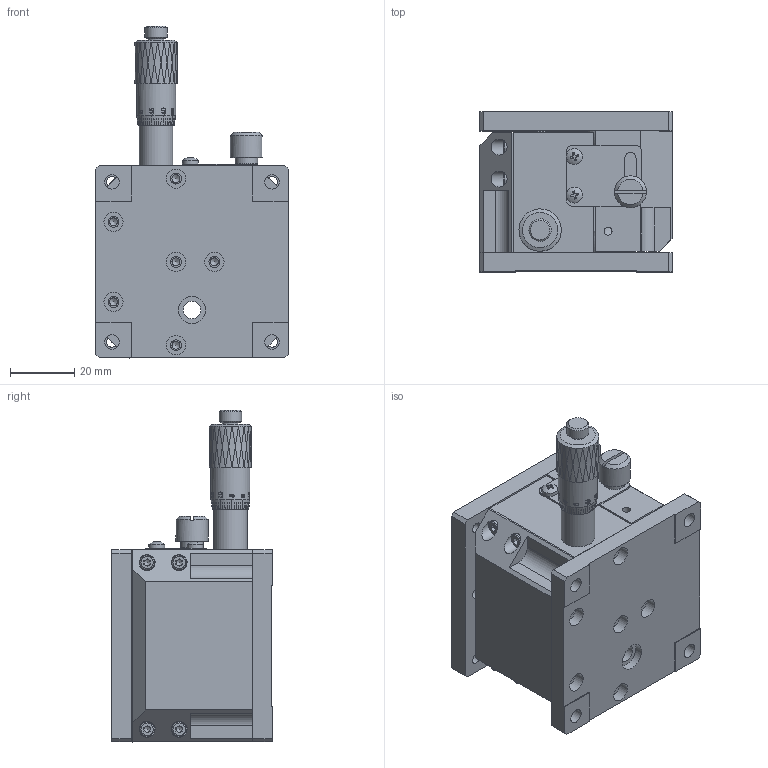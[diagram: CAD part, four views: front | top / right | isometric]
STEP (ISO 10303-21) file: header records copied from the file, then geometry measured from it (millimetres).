
FILE_DESCRIPTION (( 'STEP AP203' ), '1' );
FILE_NAME ('BLZ60.STEP', '2024-07-03T12:55:37', ( 'Windows User' ), ( 'P R C' ), 'SwSTEP 2.0', 'SolidWorks 2024', '' );
FILE_SCHEMA (( 'CONFIG_CONTROL_DESIGN' ));
Length unit declared in the file: millimetre
Products named in the file (1): BLZ60
Bounding box: 60 x 50 x 103.64 mm (x, y, z)
Volume: 142259.3 mm3; surface area: 67384.3 mm2
Topology: 27 solids, 27 shells, 1414 faces, 3485 edges, 2256 vertices
Faces by surface type: plane 501, bspline 395, cylinder 315, cone 182, torus 17, sphere 4
Full cylindrical faces by diameter (mm): 2.05 x19, 2.5 x27, 2.55 x12, 2.6 x2, 2.9 x4, 2.95 x9, 3 x5, 3.3 x9, 3.4 x11, 4.3 x1, 4.4 x12, 4.5 x8, 5 x12, 5.5 x9, 6 x12, 7 x5, 8.5 x3, 9.5 x2, 10 x1, 10.5 x1, 11 x1, 12.2 x1, 15 x1
Entity records: 71442 total; most frequent: CARTESIAN_POINT 43216, ORIENTED_EDGE 6214, DIRECTION 4323, EDGE_CURVE 3107, VERTEX_POINT 2151, EDGE_LOOP 1930, AXIS2_PLACEMENT_3D 1690, FACE_OUTER_BOUND 1575
